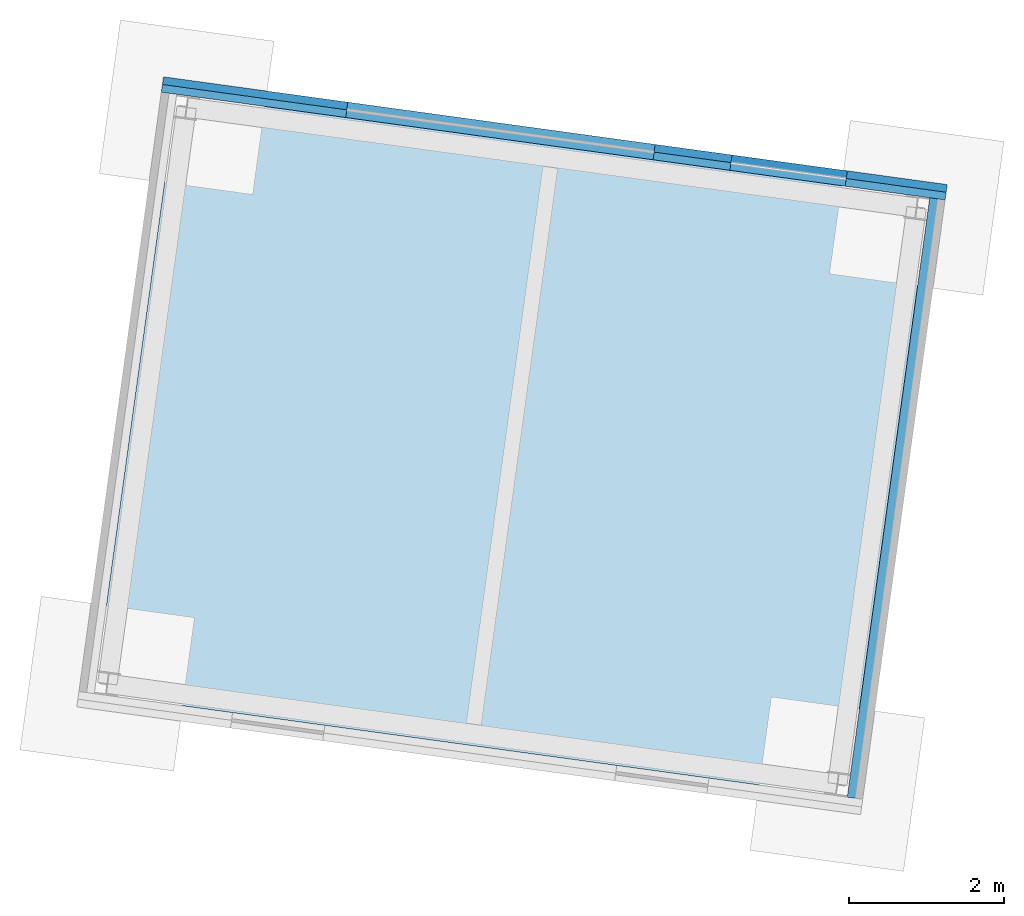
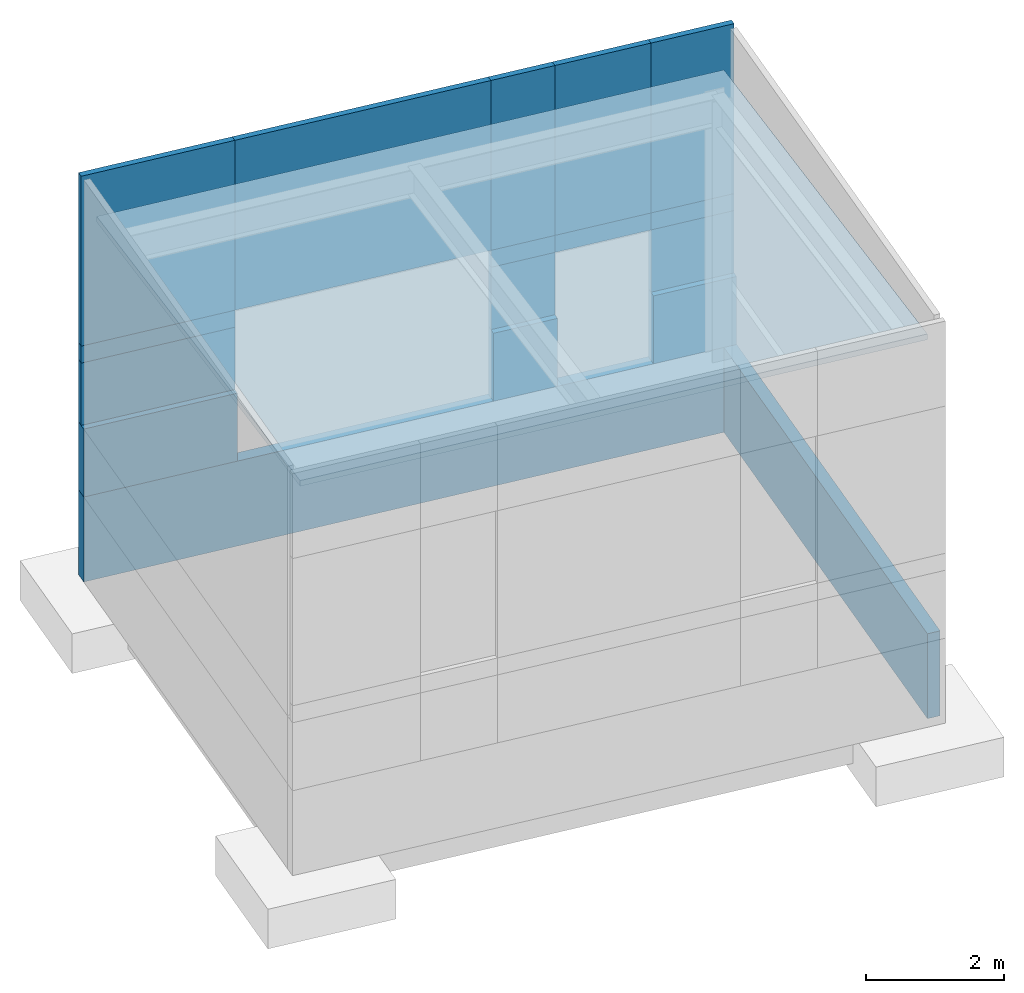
# One storey, part 2 of 3: 17 walls, 1 roof.
"""IFC4 building model written with IfcOpenShell, lengths in metres."""

from ifc_helpers import new_model, si_unit, direction, origin_with_axes, place, context, subcontext, project, spatial, triangles, material, element, save


model = new_model("IFC4")

# Units and contexts
model_context = context("Model", 3, precision=1e-05, world=origin_with_axes(), true_north=direction((0.0, 1.0)))
body_context = subcontext(model_context, "Body", "Model", "MODEL_VIEW")
ifc_project = project(units=[si_unit("AREAUNIT", "SQUARE_METRE"), si_unit("VOLUMEUNIT", "CUBIC_METRE"), si_unit("LENGTHUNIT", "METRE")], contexts=[model_context])

# Site, building, storey
site_placement = place(None, origin_with_axes())
site = spatial("IfcSite", under=ifc_project, at=site_placement, Name="Parcela industrial Jinhong")
building_placement = place(site_placement, origin_with_axes())
building = spatial("IfcBuilding", under=site, at=building_placement, Name="Sala de bombas contra incendios")
storey_placement = place(building_placement, origin_with_axes())
storey = spatial("IfcBuildingStorey", under=building, at=storey_placement, Name="Planta baja", Elevation=1.25)

# Walls
ifc_material_1 = material(Name="Hormigón prefabricado macizo", Category="Material documentado")
wall_1_placement = place(storey_placement, origin_with_axes())
element("IfcWall", 1, at=wall_1_placement, inside=storey, material=ifc_material_1, Name="Sala de bombas contra incendios · Zócalo de hormigón · eje B · tramo 01", PredefinedType="STANDARD", context=body_context, shape_type="Tessellation", body=[
    triangles([(9.205723, 34.719295, 1.25), (11.583357, 34.392406, 1.25), (11.610598, 34.590542, 1.25), (9.232964, 34.917431, 1.25), (9.205723, 34.719295, 2.45), (11.583357, 34.392406, 2.45), (11.610598, 34.590542, 2.45), (9.232964, 34.917431, 2.45)], [[2, 1, 4], [4, 3, 2], [8, 5, 6], [6, 7, 8], [1, 2, 6], [1, 6, 5], [2, 3, 7], [2, 7, 6], [3, 4, 8], [3, 8, 7], [4, 1, 5], [4, 5, 8]], closed=True),
])
wall_2_placement = place(storey_placement, origin_with_axes())
element("IfcWall", 2, at=wall_2_placement, inside=storey, material=ifc_material_1, Name="Sala de bombas contra incendios · Zócalo de hormigón · eje B · tramo 02", PredefinedType="STANDARD", context=body_context, shape_type="Tessellation", body=[
    triangles([(15.54608, 33.84759, 1.25), (16.536761, 33.711386, 1.25), (16.564002, 33.909522, 1.25), (15.573321, 34.045726, 1.25), (15.54608, 33.84759, 2.45), (16.536761, 33.711386, 2.45), (16.564002, 33.909522, 2.45), (15.573321, 34.045726, 2.45)], [[2, 1, 4], [4, 3, 2], [8, 5, 6], [6, 7, 8], [1, 2, 6], [1, 6, 5], [2, 3, 7], [2, 7, 6], [3, 4, 8], [3, 8, 7], [4, 1, 5], [4, 5, 8]], closed=True),
])
wall_3_placement = place(storey_placement, origin_with_axes())
element("IfcWall", 3, at=wall_3_placement, inside=storey, material=ifc_material_1, Name="Sala de bombas contra incendios · Zócalo de hormigón · eje B · tramo 03", PredefinedType="STANDARD", context=body_context, shape_type="Tessellation", body=[
    triangles([(18.022782, 33.50708, 1.25), (19.310667, 33.330015, 1.25), (19.337908, 33.528151, 1.25), (18.050023, 33.705216, 1.25), (18.022782, 33.50708, 2.45), (19.310667, 33.330015, 2.45), (19.337908, 33.528151, 2.45), (18.050023, 33.705216, 2.45)], [[2, 1, 4], [4, 3, 2], [8, 5, 6], [6, 7, 8], [1, 2, 6], [1, 6, 5], [2, 3, 7], [2, 7, 6], [3, 4, 8], [3, 8, 7], [4, 1, 5], [4, 5, 8]], closed=True),
])
ifc_material_2 = material(Name="Panel sándwich de acero con núcleo de lana de roca", Category="Material documentado")
wall_4_placement = place(storey_placement, origin_with_axes())
element("IfcWall", 4, at=wall_4_placement, inside=storey, material=ifc_material_2, Name="Sala de bombas contra incendios · Panel sándwich de fachada con núcleo de lana de roca · eje B · tramo 01", PredefinedType="STANDARD", context=body_context, shape_type="Tessellation", body=[
    triangles([(9.219344, 34.818363, 2.45), (11.596977, 34.491474, 2.45), (11.610598, 34.590542, 2.45), (9.232964, 34.917431, 2.45), (9.219344, 34.818363, 3.55), (11.596977, 34.491474, 3.55), (11.610598, 34.590542, 3.55), (9.232964, 34.917431, 3.55)], [[2, 1, 4], [4, 3, 2], [8, 5, 6], [6, 7, 8], [1, 2, 6], [1, 6, 5], [2, 3, 7], [2, 7, 6], [3, 4, 8], [3, 8, 7], [4, 1, 5], [4, 5, 8]], closed=True),
])
wall_5_placement = place(storey_placement, origin_with_axes())
element("IfcWall", 5, at=wall_5_placement, inside=storey, material=ifc_material_2, Name="Sala de bombas contra incendios · Panel sándwich de fachada con núcleo de lana de roca · eje B · tramo 02", PredefinedType="STANDARD", context=body_context, shape_type="Tessellation", body=[
    triangles([(9.219344, 34.818363, 3.55), (11.596977, 34.491474, 3.55), (11.610598, 34.590542, 3.55), (9.232964, 34.917431, 3.55), (9.219344, 34.818363, 3.85), (11.596977, 34.491474, 3.85), (11.610598, 34.590542, 3.85), (9.232964, 34.917431, 3.85)], [[2, 1, 4], [4, 3, 2], [8, 5, 6], [6, 7, 8], [1, 2, 6], [1, 6, 5], [2, 3, 7], [2, 7, 6], [3, 4, 8], [3, 8, 7], [4, 1, 5], [4, 5, 8]], closed=True),
])
wall_6_placement = place(storey_placement, origin_with_axes())
element("IfcWall", 6, at=wall_6_placement, inside=storey, material=ifc_material_2, Name="Sala de bombas contra incendios · Panel sándwich de fachada con núcleo de lana de roca · eje B · tramo 03", PredefinedType="STANDARD", context=body_context, shape_type="Tessellation", body=[
    triangles([(9.219344, 34.818363, 3.85), (11.596977, 34.491474, 3.85), (11.610598, 34.590542, 3.85), (9.232964, 34.917431, 3.85), (9.219344, 34.818363, 6.85), (11.596977, 34.491474, 6.85), (11.610598, 34.590542, 6.85), (9.232964, 34.917431, 6.85)], [[2, 1, 4], [4, 3, 2], [8, 5, 6], [6, 7, 8], [1, 2, 6], [1, 6, 5], [2, 3, 7], [2, 7, 6], [3, 4, 8], [3, 8, 7], [4, 1, 5], [4, 5, 8]], closed=True),
])
wall_7_placement = place(storey_placement, origin_with_axes())
element("IfcWall", 7, at=wall_7_placement, inside=storey, material=ifc_material_2, Name="Sala de bombas contra incendios · Panel sándwich de fachada con núcleo de lana de roca · eje B · tramo 04", PredefinedType="STANDARD", context=body_context, shape_type="Tessellation", body=[
    triangles([(11.596977, 34.491474, 3.85), (15.559701, 33.946658, 3.85), (15.573321, 34.045726, 3.85), (11.610598, 34.590542, 3.85), (11.596977, 34.491474, 6.85), (15.559701, 33.946658, 6.85), (15.573321, 34.045726, 6.85), (11.610598, 34.590542, 6.85)], [[2, 1, 4], [4, 3, 2], [8, 5, 6], [6, 7, 8], [1, 2, 6], [1, 6, 5], [2, 3, 7], [2, 7, 6], [3, 4, 8], [3, 8, 7], [4, 1, 5], [4, 5, 8]], closed=True),
])
wall_8_placement = place(storey_placement, origin_with_axes())
element("IfcWall", 8, at=wall_8_placement, inside=storey, material=ifc_material_2, Name="Sala de bombas contra incendios · Panel sándwich de fachada con núcleo de lana de roca · eje B · tramo 05", PredefinedType="STANDARD", context=body_context, shape_type="Tessellation", body=[
    triangles([(15.559701, 33.946658, 2.45), (16.550382, 33.810454, 2.45), (16.564002, 33.909522, 2.45), (15.573321, 34.045726, 2.45), (15.559701, 33.946658, 3.55), (16.550382, 33.810454, 3.55), (16.564002, 33.909522, 3.55), (15.573321, 34.045726, 3.55)], [[2, 1, 4], [4, 3, 2], [8, 5, 6], [6, 7, 8], [1, 2, 6], [1, 6, 5], [2, 3, 7], [2, 7, 6], [3, 4, 8], [3, 8, 7], [4, 1, 5], [4, 5, 8]], closed=True),
])
wall_9_placement = place(storey_placement, origin_with_axes())
element("IfcWall", 9, at=wall_9_placement, inside=storey, material=ifc_material_2, Name="Sala de bombas contra incendios · Panel sándwich de fachada con núcleo de lana de roca · eje B · tramo 06", PredefinedType="STANDARD", context=body_context, shape_type="Tessellation", body=[
    triangles([(15.559701, 33.946658, 3.55), (16.550382, 33.810454, 3.55), (16.564002, 33.909522, 3.55), (15.573321, 34.045726, 3.55), (15.559701, 33.946658, 3.85), (16.550382, 33.810454, 3.85), (16.564002, 33.909522, 3.85), (15.573321, 34.045726, 3.85)], [[2, 1, 4], [4, 3, 2], [8, 5, 6], [6, 7, 8], [1, 2, 6], [1, 6, 5], [2, 3, 7], [2, 7, 6], [3, 4, 8], [3, 8, 7], [4, 1, 5], [4, 5, 8]], closed=True),
])
wall_10_placement = place(storey_placement, origin_with_axes())
element("IfcWall", 10, at=wall_10_placement, inside=storey, material=ifc_material_2, Name="Sala de bombas contra incendios · Panel sándwich de fachada con núcleo de lana de roca · eje B · tramo 07", PredefinedType="STANDARD", context=body_context, shape_type="Tessellation", body=[
    triangles([(15.559701, 33.946658, 3.85), (16.550382, 33.810454, 3.85), (16.564002, 33.909522, 3.85), (15.573321, 34.045726, 3.85), (15.559701, 33.946658, 6.85), (16.550382, 33.810454, 6.85), (16.564002, 33.909522, 6.85), (15.573321, 34.045726, 6.85)], [[2, 1, 4], [4, 3, 2], [8, 5, 6], [6, 7, 8], [1, 2, 6], [1, 6, 5], [2, 3, 7], [2, 7, 6], [3, 4, 8], [3, 8, 7], [4, 1, 5], [4, 5, 8]], closed=True),
])
wall_11_placement = place(storey_placement, origin_with_axes())
element("IfcWall", 11, at=wall_11_placement, inside=storey, material=ifc_material_2, Name="Sala de bombas contra incendios · Panel sándwich de fachada con núcleo de lana de roca · eje B · tramo 08", PredefinedType="STANDARD", context=body_context, shape_type="Tessellation", body=[
    triangles([(16.550382, 33.810454, 3.55), (18.036403, 33.606148, 3.55), (18.050023, 33.705216, 3.55), (16.564002, 33.909522, 3.55), (16.550382, 33.810454, 3.85), (18.036403, 33.606148, 3.85), (18.050023, 33.705216, 3.85), (16.564002, 33.909522, 3.85)], [[2, 1, 4], [4, 3, 2], [8, 5, 6], [6, 7, 8], [1, 2, 6], [1, 6, 5], [2, 3, 7], [2, 7, 6], [3, 4, 8], [3, 8, 7], [4, 1, 5], [4, 5, 8]], closed=True),
])
wall_12_placement = place(storey_placement, origin_with_axes())
element("IfcWall", 12, at=wall_12_placement, inside=storey, material=ifc_material_2, Name="Sala de bombas contra incendios · Panel sándwich de fachada con núcleo de lana de roca · eje B · tramo 09", PredefinedType="STANDARD", context=body_context, shape_type="Tessellation", body=[
    triangles([(16.550382, 33.810454, 3.85), (18.036403, 33.606148, 3.85), (18.050023, 33.705216, 3.85), (16.564002, 33.909522, 3.85), (16.550382, 33.810454, 6.85), (18.036403, 33.606148, 6.85), (18.050023, 33.705216, 6.85), (16.564002, 33.909522, 6.85)], [[2, 1, 4], [4, 3, 2], [8, 5, 6], [6, 7, 8], [1, 2, 6], [1, 6, 5], [2, 3, 7], [2, 7, 6], [3, 4, 8], [3, 8, 7], [4, 1, 5], [4, 5, 8]], closed=True),
])
wall_13_placement = place(storey_placement, origin_with_axes())
element("IfcWall", 13, at=wall_13_placement, inside=storey, material=ifc_material_2, Name="Sala de bombas contra incendios · Panel sándwich de fachada con núcleo de lana de roca · eje B · tramo 10", PredefinedType="STANDARD", context=body_context, shape_type="Tessellation", body=[
    triangles([(18.036403, 33.606148, 2.45), (19.324288, 33.429083, 2.45), (19.337908, 33.528151, 2.45), (18.050023, 33.705216, 2.45), (18.036403, 33.606148, 3.55), (19.324288, 33.429083, 3.55), (19.337908, 33.528151, 3.55), (18.050023, 33.705216, 3.55)], [[2, 1, 4], [4, 3, 2], [8, 5, 6], [6, 7, 8], [1, 2, 6], [1, 6, 5], [2, 3, 7], [2, 7, 6], [3, 4, 8], [3, 8, 7], [4, 1, 5], [4, 5, 8]], closed=True),
])
wall_14_placement = place(storey_placement, origin_with_axes())
element("IfcWall", 14, at=wall_14_placement, inside=storey, material=ifc_material_2, Name="Sala de bombas contra incendios · Panel sándwich de fachada con núcleo de lana de roca · eje B · tramo 11", PredefinedType="STANDARD", context=body_context, shape_type="Tessellation", body=[
    triangles([(18.036403, 33.606148, 3.55), (19.324288, 33.429083, 3.55), (19.337908, 33.528151, 3.55), (18.050023, 33.705216, 3.55), (18.036403, 33.606148, 3.85), (19.324288, 33.429083, 3.85), (19.337908, 33.528151, 3.85), (18.050023, 33.705216, 3.85)], [[2, 1, 4], [4, 3, 2], [8, 5, 6], [6, 7, 8], [1, 2, 6], [1, 6, 5], [2, 3, 7], [2, 7, 6], [3, 4, 8], [3, 8, 7], [4, 1, 5], [4, 5, 8]], closed=True),
])
wall_15_placement = place(storey_placement, origin_with_axes())
element("IfcWall", 15, at=wall_15_placement, inside=storey, material=ifc_material_2, Name="Sala de bombas contra incendios · Panel sándwich de fachada con núcleo de lana de roca · eje B · tramo 12", PredefinedType="STANDARD", context=body_context, shape_type="Tessellation", body=[
    triangles([(18.036403, 33.606148, 3.85), (19.324288, 33.429083, 3.85), (19.337908, 33.528151, 3.85), (18.050023, 33.705216, 3.85), (18.036403, 33.606148, 6.85), (19.324288, 33.429083, 6.85), (19.337908, 33.528151, 6.85), (18.050023, 33.705216, 6.85)], [[2, 1, 4], [4, 3, 2], [8, 5, 6], [6, 7, 8], [1, 2, 6], [1, 6, 5], [2, 3, 7], [2, 7, 6], [3, 4, 8], [3, 8, 7], [4, 1, 5], [4, 5, 8]], closed=True),
])
ifc_material_3 = material(Name="Hormigón armado", Category="Material documentado")
wall_16_placement = place(storey_placement, origin_with_axes())
element("IfcWall", 16, at=wall_16_placement, inside=storey, material=ifc_material_3, Name="Sala de bombas contra incendios · muro de cimentación de 200 mm · eje B", PredefinedType="STANDARD", context=body_context, shape_type="Tessellation", body=[
    triangles([(9.205723, 34.719295, -0.25), (19.310667, 33.330015, -0.25), (19.337908, 33.528151, -0.25), (9.232964, 34.917431, -0.25), (9.205723, 34.719295, 1.25), (19.310667, 33.330015, 1.25), (19.337908, 33.528151, 1.25), (9.232964, 34.917431, 1.25)], [[2, 1, 4], [4, 3, 2], [8, 5, 6], [6, 7, 8], [1, 2, 6], [1, 6, 5], [2, 3, 7], [2, 7, 6], [3, 4, 8], [3, 8, 7], [4, 1, 5], [4, 5, 8]], closed=True),
])
wall_17_placement = place(storey_placement, origin_with_axes())
element("IfcWall", 17, at=wall_17_placement, inside=storey, material=ifc_material_3, Name="Sala de bombas contra incendios · muro de cimentación de 200 mm · eje 2", PredefinedType="STANDARD", context=body_context, shape_type="Tessellation", body=[
    triangles([(18.050141, 25.629946, -0.25), (18.248277, 25.602705, -0.25), (19.310667, 33.330015, -0.25), (19.112531, 33.357256, -0.25), (18.050141, 25.629946, 1.25), (18.248277, 25.602705, 1.25), (19.310667, 33.330015, 1.25), (19.112531, 33.357256, 1.25)], [[2, 1, 4], [4, 3, 2], [8, 5, 6], [6, 7, 8], [1, 2, 6], [1, 6, 5], [2, 3, 7], [2, 7, 6], [3, 4, 8], [3, 8, 7], [4, 1, 5], [4, 5, 8]], closed=True),
])

# Roof
ifc_material_4 = material(Name="Panel sándwich de acero con núcleo de lana de roca", Category="Material documentado")
roof_placement = place(storey_placement, origin_with_axes())
element("IfcRoof", 18, at=roof_placement, inside=storey, material=ifc_material_4, Name="Cubierta sándwich de la sala de bombas · 100 mm · pendiente 5 %", PredefinedType="SHED_ROOF", context=body_context, shape_type="Tessellation", body=[
    triangles([(8.341469, 26.964744, 6.445), (18.050141, 25.629946, 6.445), (19.112531, 33.357256, 6.055), (9.403859, 34.692054, 6.055), (8.341469, 26.964744, 6.545), (18.050141, 25.629946, 6.545), (19.112531, 33.357256, 6.155), (9.403859, 34.692054, 6.155)], [[2, 1, 4], [4, 3, 2], [8, 5, 6], [6, 7, 8], [1, 2, 6], [1, 6, 5], [2, 3, 7], [2, 7, 6], [3, 4, 8], [3, 8, 7], [4, 1, 5], [4, 5, 8]], closed=True),
])

save(model, "model.ifc")
